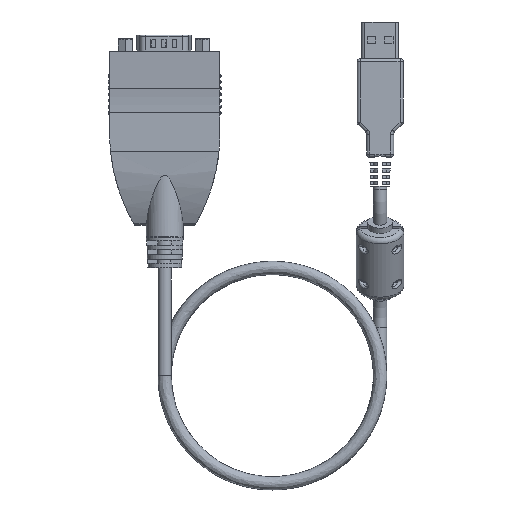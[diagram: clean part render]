
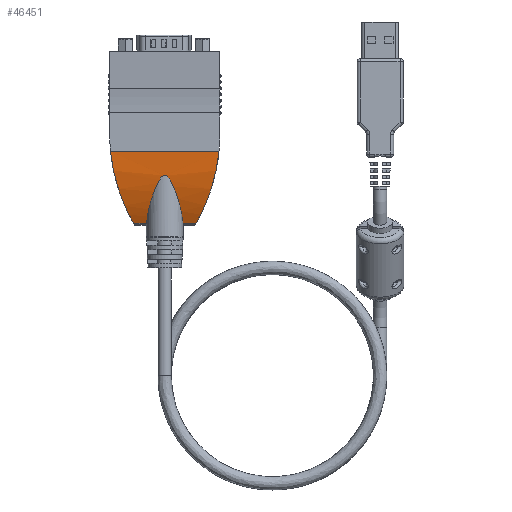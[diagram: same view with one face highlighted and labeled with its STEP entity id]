
A CAD part, front view. The second image highlights one B-rep face of the part: STEP entity #46451.
In plain terms, the highlighted cylindrical face has radius 50.788 mm (diameter 101.575 mm), a partial arc.
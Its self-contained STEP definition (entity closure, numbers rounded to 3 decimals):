
#5370=FACE_OUTER_BOUND('',#8088,.T.);
#8088=EDGE_LOOP('',(#33495,#33496,#33497,#33498,#33499,#33500));
#10370=B_SPLINE_CURVE_WITH_KNOTS('',3,(#76595,#76596,#76597,#76598,#76599,
#76600,#76601,#76602,#76603,#76604,#76605,#76606),.UNSPECIFIED.,.F.,.F.,
(4,2,2,2,2,4),(6.318,6.501,7.085,7.67,
8.397,8.758),.UNSPECIFIED.);
#10374=B_SPLINE_CURVE_WITH_KNOTS('',3,(#76662,#76663,#76664,#76665,#76666,
#76667,#76668,#76669,#76670,#76671,#76672,#76673),.UNSPECIFIED.,.F.,.F.,
(4,2,2,2,2,4),(6.318,6.501,7.085,7.67,
8.397,8.758),.UNSPECIFIED.);
#10381=B_SPLINE_CURVE_WITH_KNOTS('',3,(#77375,#77376,#77377,#77378,#77379,
#77380,#77381,#77382,#77383,#77384,#77385,#77386,#77387,#77388,#77389,#77390,
#77391,#77392,#77393,#77394,#77395,#77396,#77397,#77398,#77399,#77400,#77401,
#77402,#77403,#77404,#77405),.UNSPECIFIED.,.F.,.F.,(4,2,2,2,2,2,2,3,2,2,
2,2,2,2,4),(-1.705,-1.245,-0.602,-0.378,
-0.154,-0.077,-0.038,0.,0.038,
0.077,0.154,0.378,0.602,
1.245,1.705),.UNSPECIFIED.);
#12543=LINE('',#76643,#15745);
#12546=LINE('',#76650,#15748);
#12548=LINE('',#76684,#15750);
#15745=VECTOR('',#56103,10.);
#15748=VECTOR('',#56110,10.);
#15750=VECTOR('',#56116,10.);
#19168=VERTEX_POINT('',#76592);
#19169=VERTEX_POINT('',#76594);
#19176=VERTEX_POINT('',#76632);
#19179=VERTEX_POINT('',#76648);
#19180=VERTEX_POINT('',#76653);
#19181=VERTEX_POINT('',#76675);
#24438=EDGE_CURVE('',#19168,#19169,#10370,.T.);
#24450=EDGE_CURVE('',#19176,#19169,#12543,.T.);
#24454=EDGE_CURVE('',#19179,#19168,#12546,.T.);
#24457=EDGE_CURVE('',#19179,#19180,#10374,.T.);
#24459=EDGE_CURVE('',#19181,#19180,#12548,.T.);
#24687=EDGE_CURVE('',#19181,#19176,#10381,.F.);
#33495=ORIENTED_EDGE('',*,*,#24687,.T.);
#33496=ORIENTED_EDGE('',*,*,#24450,.T.);
#33497=ORIENTED_EDGE('',*,*,#24438,.F.);
#33498=ORIENTED_EDGE('',*,*,#24454,.F.);
#33499=ORIENTED_EDGE('',*,*,#24457,.T.);
#33500=ORIENTED_EDGE('',*,*,#24459,.F.);
#45430=CYLINDRICAL_SURFACE('',#49568,50.788);
#46451=ADVANCED_FACE('',(#5370),#45430,.T.);
#49568=AXIS2_PLACEMENT_3D('',#77374,#56553,#56554);
#56103=DIRECTION('',(1.,0.,0.));
#56110=DIRECTION('',(1.,0.,0.));
#56116=DIRECTION('',(-1.,0.,0.));
#56553=DIRECTION('center_axis',(1.,0.,0.));
#56554=DIRECTION('ref_axis',(0.,-1.,0.));
#76592=CARTESIAN_POINT('',(17.617,-6.605,-25.5));
#76594=CARTESIAN_POINT('',(10.116,-0.887,-48.911));
#76595=CARTESIAN_POINT('Ctrl Pts',(17.617,-6.605,-25.5));
#76596=CARTESIAN_POINT('Ctrl Pts',(17.555,-6.605,-26.152));
#76597=CARTESIAN_POINT('Ctrl Pts',(17.481,-6.592,-26.804));
#76598=CARTESIAN_POINT('Ctrl Pts',(17.126,-6.487,-29.531));
#76599=CARTESIAN_POINT('Ctrl Pts',(16.741,-6.278,-31.59));
#76600=CARTESIAN_POINT('Ctrl Pts',(15.782,-5.64,-35.554));
#76601=CARTESIAN_POINT('Ctrl Pts',(15.208,-5.212,-37.458));
#76602=CARTESIAN_POINT('Ctrl Pts',(13.799,-4.092,-41.444));
#76603=CARTESIAN_POINT('Ctrl Pts',(12.864,-3.307,-43.653));
#76604=CARTESIAN_POINT('Ctrl Pts',(11.267,-1.914,-46.851));
#76605=CARTESIAN_POINT('Ctrl Pts',(10.705,-1.416,-47.893));
#76606=CARTESIAN_POINT('Ctrl Pts',(10.116,-0.887,-48.911));
#76632=CARTESIAN_POINT('',(5.936,-0.887,-48.911));
#76643=CARTESIAN_POINT('',(0.,-0.887,-48.911));
#76648=CARTESIAN_POINT('',(-17.617,-6.605,-25.5));
#76650=CARTESIAN_POINT('',(0.,-6.605,-25.5));
#76653=CARTESIAN_POINT('',(-10.116,-0.887,-48.911));
#76662=CARTESIAN_POINT('Ctrl Pts',(-17.617,-6.605,-25.5));
#76663=CARTESIAN_POINT('Ctrl Pts',(-17.555,-6.605,-26.152));
#76664=CARTESIAN_POINT('Ctrl Pts',(-17.481,-6.592,-26.804));
#76665=CARTESIAN_POINT('Ctrl Pts',(-17.126,-6.487,-29.531));
#76666=CARTESIAN_POINT('Ctrl Pts',(-16.741,-6.278,
-31.59));
#76667=CARTESIAN_POINT('Ctrl Pts',(-15.782,-5.64,-35.554));
#76668=CARTESIAN_POINT('Ctrl Pts',(-15.208,-5.212,
-37.458));
#76669=CARTESIAN_POINT('Ctrl Pts',(-13.799,-4.092,-41.444));
#76670=CARTESIAN_POINT('Ctrl Pts',(-12.864,-3.307,
-43.653));
#76671=CARTESIAN_POINT('Ctrl Pts',(-11.267,-1.914,
-46.851));
#76672=CARTESIAN_POINT('Ctrl Pts',(-10.705,-1.416,-47.893));
#76673=CARTESIAN_POINT('Ctrl Pts',(-10.116,-0.887,
-48.911));
#76675=CARTESIAN_POINT('',(-5.936,-0.887,-48.911));
#76684=CARTESIAN_POINT('',(0.,-0.887,-48.911));
#77374=CARTESIAN_POINT('Origin',(0.,44.183,-25.5));
#77375=CARTESIAN_POINT('Ctrl Pts',(5.936,-0.887,-48.911));
#77376=CARTESIAN_POINT('Ctrl Pts',(5.827,-1.622,-47.496));
#77377=CARTESIAN_POINT('Ctrl Pts',(5.582,-2.315,-45.994));
#77378=CARTESIAN_POINT('Ctrl Pts',(4.765,-3.779,-42.36));
#77379=CARTESIAN_POINT('Ctrl Pts',(4.108,-4.469,-40.212));
#77380=CARTESIAN_POINT('Ctrl Pts',(3.1,-5.15,-37.591));
#77381=CARTESIAN_POINT('Ctrl Pts',(2.794,-5.326,-36.85));
#77382=CARTESIAN_POINT('Ctrl Pts',(2.103,-5.635,-35.408));
#77383=CARTESIAN_POINT('Ctrl Pts',(1.727,-5.768,-34.701));
#77384=CARTESIAN_POINT('Ctrl Pts',(1.107,-5.902,-33.925));
#77385=CARTESIAN_POINT('Ctrl Pts',(0.918,-5.936,-33.72));
#77386=CARTESIAN_POINT('Ctrl Pts',(0.599,-5.973,
-33.485));
#77387=CARTESIAN_POINT('Ctrl Pts',(0.487,-5.984,-33.419));
#77388=CARTESIAN_POINT('Ctrl Pts',(0.251,-5.998,
-33.326));
#77389=CARTESIAN_POINT('Ctrl Pts',(0.128,-6.002,
-33.3));
#77390=CARTESIAN_POINT('Ctrl Pts',(0.,-6.002,-33.3));
#77391=CARTESIAN_POINT('Ctrl Pts',(-0.128,-6.002,
-33.3));
#77392=CARTESIAN_POINT('Ctrl Pts',(-0.251,-5.998,
-33.326));
#77393=CARTESIAN_POINT('Ctrl Pts',(-0.487,-5.984,
-33.419));
#77394=CARTESIAN_POINT('Ctrl Pts',(-0.599,-5.973,
-33.485));
#77395=CARTESIAN_POINT('Ctrl Pts',(-0.918,-5.936,
-33.72));
#77396=CARTESIAN_POINT('Ctrl Pts',(-1.107,-5.902,
-33.925));
#77397=CARTESIAN_POINT('Ctrl Pts',(-1.727,-5.768,
-34.701));
#77398=CARTESIAN_POINT('Ctrl Pts',(-2.103,-5.635,
-35.408));
#77399=CARTESIAN_POINT('Ctrl Pts',(-2.794,-5.326,
-36.85));
#77400=CARTESIAN_POINT('Ctrl Pts',(-3.1,-5.15,-37.591));
#77401=CARTESIAN_POINT('Ctrl Pts',(-4.108,-4.469,
-40.212));
#77402=CARTESIAN_POINT('Ctrl Pts',(-4.765,-3.779,-42.36));
#77403=CARTESIAN_POINT('Ctrl Pts',(-5.582,-2.315,
-45.994));
#77404=CARTESIAN_POINT('Ctrl Pts',(-5.827,-1.622,
-47.496));
#77405=CARTESIAN_POINT('Ctrl Pts',(-5.936,-0.887,-48.911));
